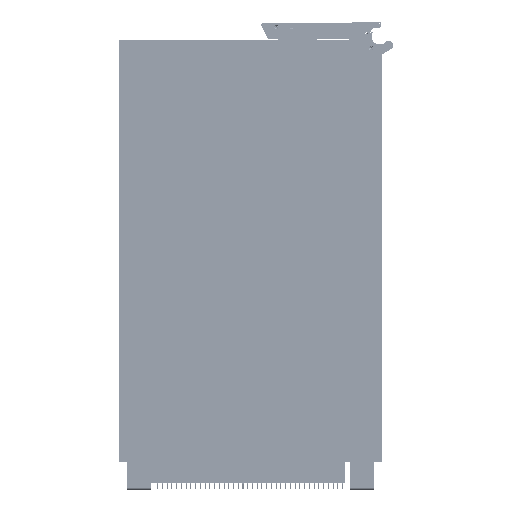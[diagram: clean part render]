
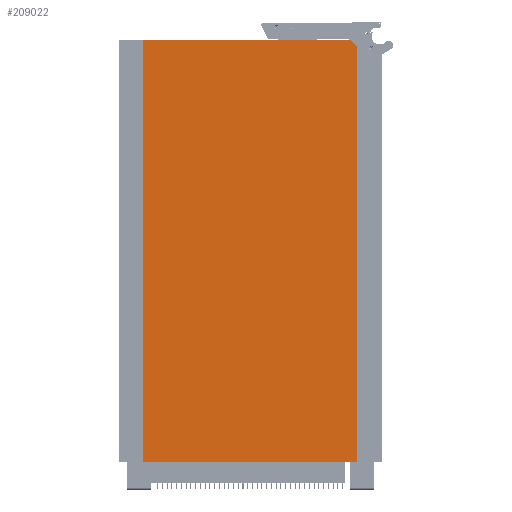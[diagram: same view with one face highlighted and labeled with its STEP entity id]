
A CAD part, front view. The second image highlights one B-rep face of the part: STEP entity #209022.
In plain terms, the highlighted planar face has unit normal (0, -1, 0).
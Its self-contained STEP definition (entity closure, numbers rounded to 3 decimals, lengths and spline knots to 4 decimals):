
#3034 = ORIENTED_EDGE ( 'NONE', *, *, #165541, .T. ) ;
#14819 = EDGE_CURVE ( 'NONE', #658844, #675440, #552680, .T. ) ;
#28230 = DIRECTION ( 'NONE',  ( -1., 0., 0. ) ) ;
#31977 = CARTESIAN_POINT ( 'NONE',  ( 1.5985, -0.755, -6.2992 ) ) ;
#33169 = DIRECTION ( 'NONE',  ( -0.707, 0., 0.707 ) ) ;
#48840 = EDGE_CURVE ( 'NONE', #95374, #658844, #585374, .T. ) ;
#78559 = PLANE ( 'NONE',  #557871 ) ;
#89686 = DIRECTION ( 'NONE',  ( 0., 0., 1. ) ) ;
#95374 = VERTEX_POINT ( 'NONE', #613058 ) ;
#103575 = FACE_OUTER_BOUND ( 'NONE', #337995, .T. ) ;
#147825 = CARTESIAN_POINT ( 'NONE',  ( 1.4985, -0.755, 0. ) ) ;
#149153 = CARTESIAN_POINT ( 'NONE',  ( -1.5985, -0.755, -6.2992 ) ) ;
#165541 = EDGE_CURVE ( 'NONE', #675440, #402115, #338184, .T. ) ;
#176493 = CARTESIAN_POINT ( 'NONE',  ( 1.5985, -0.755, -0.1 ) ) ;
#209022 = ADVANCED_FACE ( 'NONE', ( #103575 ), #78559, .F. ) ;
#214140 = CARTESIAN_POINT ( 'NONE',  ( 0., -0.755, -6.2992 ) ) ;
#214259 = LINE ( 'NONE', #217756, #348977 ) ;
#216312 = EDGE_CURVE ( 'NONE', #532057, #402115, #214259, .T. ) ;
#217756 = CARTESIAN_POINT ( 'NONE',  ( -1.5985, -0.755, -6.2992 ) ) ;
#247310 = VECTOR ( 'NONE', #33169, 39.3701 ) ;
#314421 = CARTESIAN_POINT ( 'NONE',  ( 0., -0.755, -6.2992 ) ) ;
#323934 = CARTESIAN_POINT ( 'NONE',  ( 0., -0.755, 0. ) ) ;
#333162 = DIRECTION ( 'NONE',  ( 0., 0., 1. ) ) ;
#337995 = EDGE_LOOP ( 'NONE', ( #740278, #738390, #3034, #722834, #527925 ) ) ;
#338184 = LINE ( 'NONE', #323934, #508978 ) ;
#348977 = VECTOR ( 'NONE', #333162, 39.3701 ) ;
#372223 = DIRECTION ( 'NONE',  ( 0., 1., 0. ) ) ;
#381772 = DIRECTION ( 'NONE',  ( -1., 0., 0. ) ) ;
#402115 = VERTEX_POINT ( 'NONE', #687495 ) ;
#464198 = VECTOR ( 'NONE', #673523, 39.3701 ) ;
#508978 = VECTOR ( 'NONE', #381772, 39.3701 ) ;
#527925 = ORIENTED_EDGE ( 'NONE', *, *, #724652, .F. ) ;
#532057 = VERTEX_POINT ( 'NONE', #149153 ) ;
#552680 = LINE ( 'NONE', #605550, #247310 ) ;
#557871 = AXIS2_PLACEMENT_3D ( 'NONE', #314421, #372223, #28230 ) ;
#567291 = VECTOR ( 'NONE', #89686, 39.3701 ) ;
#585374 = LINE ( 'NONE', #31977, #567291 ) ;
#605550 = CARTESIAN_POINT ( 'NONE',  ( 1.5985, -0.755, -0.1 ) ) ;
#613058 = CARTESIAN_POINT ( 'NONE',  ( 1.5985, -0.755, -6.2992 ) ) ;
#634881 = LINE ( 'NONE', #214140, #464198 ) ;
#658844 = VERTEX_POINT ( 'NONE', #176493 ) ;
#673523 = DIRECTION ( 'NONE',  ( -1., 0., 0. ) ) ;
#675440 = VERTEX_POINT ( 'NONE', #147825 ) ;
#687495 = CARTESIAN_POINT ( 'NONE',  ( -1.5985, -0.755, 0. ) ) ;
#722834 = ORIENTED_EDGE ( 'NONE', *, *, #216312, .F. ) ;
#724652 = EDGE_CURVE ( 'NONE', #95374, #532057, #634881, .T. ) ;
#738390 = ORIENTED_EDGE ( 'NONE', *, *, #14819, .T. ) ;
#740278 = ORIENTED_EDGE ( 'NONE', *, *, #48840, .T. ) ;
